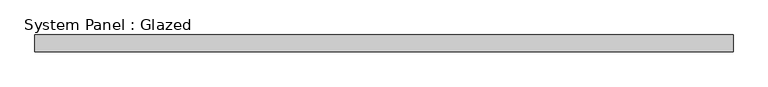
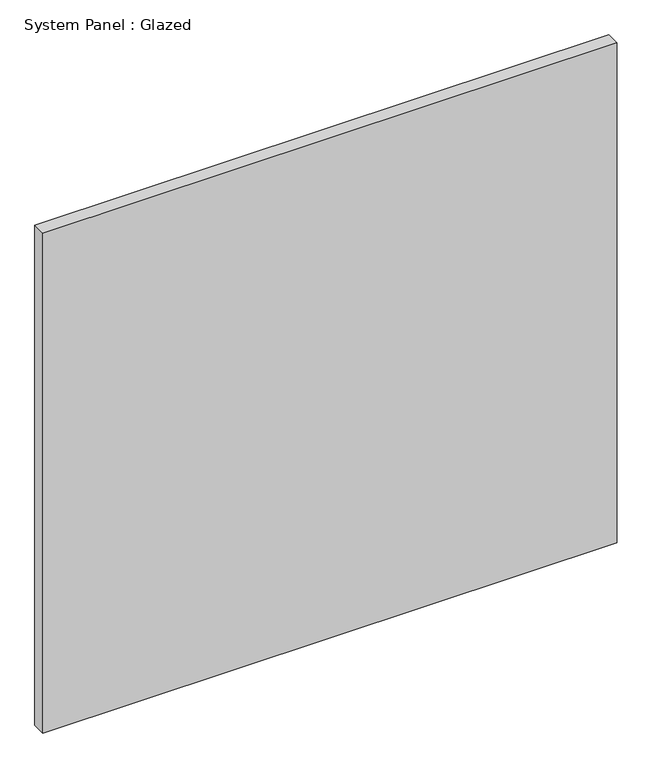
"""IFC4 building model written with IfcOpenShell, lengths in millimetres: plate geometry, System Panel : Glazed."""

from ifc_helpers import new_model, si_unit, origin, origin_with_axes, place, context, project, spatial, polyline, outline, extrude, source, transform, mapped, element, save


def system_panel_glazed_7ecb958b(model_context):
    return source(origin(), model_context, "Body", "SweptSolid", [
        extrude(outline(polyline([(517.5, -12.5), (-517.5, -12.5), (-517.5, 12.5), (517.5, 12.5), (517.5, -12.5)])), origin_with_axes(), (0.0, 0.0, 1.0), 952.5),
    ])


if __name__ == "__main__":
    model = new_model("IFC4")
    model_context = context("Model", 3, world=origin())
    ifc_project = project(units=[si_unit("LENGTHUNIT", "METRE", prefix="MILLI")], contexts=[model_context])
    site = spatial("IfcSite", under=ifc_project)
    building = spatial("IfcBuilding", under=site)
    placement = place(None, origin())
    system_panel_glazed_shape = system_panel_glazed_7ecb958b(model_context)
    element("IfcPlate", 1, ObjectType="System Panel : Glazed", at=placement, inside=building, context=model_context, shape_type="MappedRepresentation", body=[
        mapped(system_panel_glazed_shape, transform((0.0, 0.0, 0.0), x_axis=(1.0, 0.0, 0.0), y_axis=(0.0, 1.0, 0.0), z_axis=(0.0, 0.0, 1.0))),
    ])
    save(model, "model.ifc")
